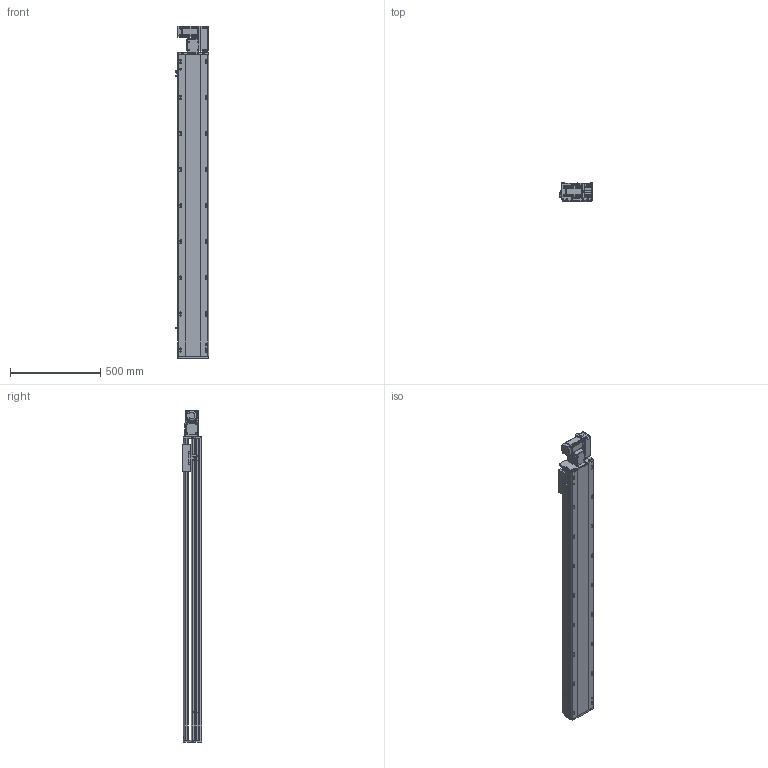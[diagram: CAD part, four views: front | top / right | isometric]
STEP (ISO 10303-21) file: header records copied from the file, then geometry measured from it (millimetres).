
FILE_DESCRIPTION (( 'STEP AP214' ), '1' );
FILE_NAME ('RTB17S-XX-1400-R-M40-C4.STEP', '2025-12-11T07:40:24', ( '' ), ( '' ), 'SwSTEP 2.0', 'SolidWorks 2018', '' );
FILE_SCHEMA (( 'AUTOMOTIVE_DESIGN' ));
Length unit declared in the file: millimetre
Products named in the file (14): RTH13-BL-012覜茼え俋离^RTB17S-XX-XX-R-M40-C4; RTB17S-XX-1400-R-M40-C4; RTB14-L-008-M20--萇儂啣^RTB17S-R-々湍釱蚾饜-400W_RTB17S-XX-XX-R-M40-C4; RTB17S-R-々湍釱蚾饜-400W^RTB17S-XX-XX-R-M40-C4; RTB14-L-005P--轴承塑胶压盖^RTB17S-R-皮带座装配-400W_RTB17S-XX-XX-R-M40-C4; OMRON EE-SX672 传感器^RTB17S-XX-XX-R-M40-C4; RTB17S-L-014-T20--々湍釱^RTB17S-R-々湍釱蚾饜-400W_RTB17S-XX-XX-R-M40-C4; RTB17S-L-004佪裝蹟譫蟀諉釱^RTB17S-XX-XX-R-M40-C4; RTB14-L-017P^RTB17S-R-々湍釱蚾饜-400W_RTB17S-XX-XX-R-M40-C4; RTB17S-L-001耜醱啣^RTB17S-XX-XX-R-M40-C4; RTB14-L-018P^RTB17S-R-々湍釱蚾饜-400W_RTB17S-XX-XX-R-M40-C4; 400W侜督萇儂^RTB17S-XX-XX-R-M40-C4; RTB17S-L-007奻裔^RTB17S-XX-XX-R-M40-C4; RTB17-R-011菁釱^RTB17S-XX-XX-R-M40-C4
Assembly tree (16 placements, depth 3):
  RTB17S-XX-1400-R-M40-C4
    RTB17-R-011菁釱^RTB17S-XX-XX-R-M40-C4
    RTB17S-L-007奻裔^RTB17S-XX-XX-R-M40-C4
    OMRON EE-SX672 传感器^RTB17S-XX-XX-R-M40-C4  x3
    RTB17S-L-001耜醱啣^RTB17S-XX-XX-R-M40-C4
    400W侜督萇儂^RTB17S-XX-XX-R-M40-C4
    RTB17S-L-004佪裝蹟譫蟀諉釱^RTB17S-XX-XX-R-M40-C4
    RTH13-BL-012覜茼え俋离^RTB17S-XX-XX-R-M40-C4
    RTB17S-R-々湍釱蚾饜-400W^RTB17S-XX-XX-R-M40-C4
      RTB17S-L-014-T20--々湍釱^RTB17S-R-々湍釱蚾饜-400W_RTB17S-XX-XX-R-M40-C4
      RTB14-L-005P--轴承塑胶压盖^RTB17S-R-皮带座装配-400W_RTB17S-XX-XX-R-M40-C4
      RTB14-L-008-M20--萇儂啣^RTB17S-R-々湍釱蚾饜-400W_RTB17S-XX-XX-R-M40-C4
      RTB14-L-017P^RTB17S-R-々湍釱蚾饜-400W_RTB17S-XX-XX-R-M40-C4  x2
      RTB14-L-018P^RTB17S-R-々湍釱蚾饜-400W_RTB17S-XX-XX-R-M40-C4
Bounding box: 183.5 x 108 x 1841 mm (x, y, z)
Volume: 15638949.3 mm3; surface area: 1852882.1 mm2
Topology: 15 solids, 15 shells, 2237 faces, 6195 edges, 4041 vertices
Faces by surface type: plane 1072, cylinder 717, bspline 301, cone 139, torus 8
Entity records: 64169 total; most frequent: CARTESIAN_POINT 18000, ORIENTED_EDGE 9234, DIRECTION 8576, EDGE_CURVE 4617, VERTEX_POINT 3029, AXIS2_PLACEMENT_3D 2959, LINE 2658, VECTOR 2658
